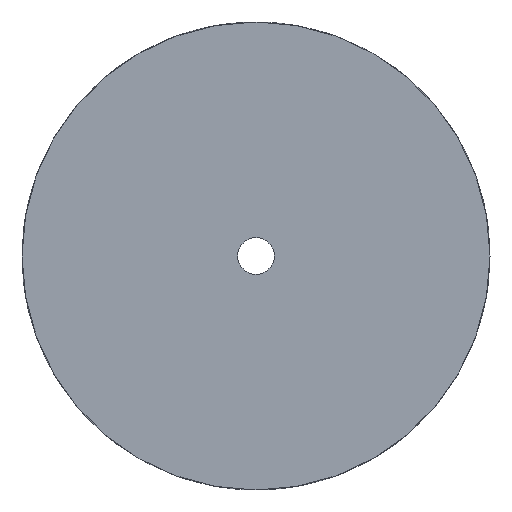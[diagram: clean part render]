
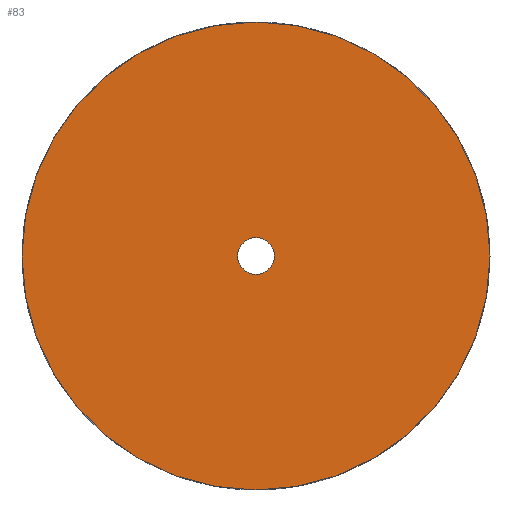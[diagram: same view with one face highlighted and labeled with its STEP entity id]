
A CAD part, front view. The second image highlights one B-rep face of the part: STEP entity #83.
In plain terms, the highlighted planar face has unit normal (0, -1, 0).
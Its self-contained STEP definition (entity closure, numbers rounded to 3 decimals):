
#19=PLANE('',#105);
#21=FACE_BOUND('',#31,.T.);
#25=FACE_OUTER_BOUND('',#30,.T.);
#30=EDGE_LOOP('',(#74,#75));
#31=EDGE_LOOP('',(#76));
#40=CIRCLE('',#100,1.5);
#41=CIRCLE('',#103,19.034);
#42=CIRCLE('',#104,19.034);
#43=VERTEX_POINT('',#132);
#48=VERTEX_POINT('',#245);
#49=VERTEX_POINT('',#246);
#50=EDGE_CURVE('',#43,#43,#40,.T.);
#56=EDGE_CURVE('',#48,#49,#41,.T.);
#57=EDGE_CURVE('',#49,#48,#42,.T.);
#74=ORIENTED_EDGE('',*,*,#56,.T.);
#75=ORIENTED_EDGE('',*,*,#57,.T.);
#76=ORIENTED_EDGE('',*,*,#50,.T.);
#83=ADVANCED_FACE('',(#25,#21),#19,.T.);
#100=AXIS2_PLACEMENT_3D('',#133,#113,#114);
#103=AXIS2_PLACEMENT_3D('',#247,#120,#121);
#104=AXIS2_PLACEMENT_3D('',#248,#122,#123);
#105=AXIS2_PLACEMENT_3D('',#250,#125,#126);
#113=DIRECTION('center_axis',(0.,1.,0.));
#114=DIRECTION('ref_axis',(1.,0.,0.));
#120=DIRECTION('center_axis',(0.,-1.,0.));
#121=DIRECTION('ref_axis',(1.,0.,0.));
#122=DIRECTION('center_axis',(0.,-1.,0.));
#123=DIRECTION('ref_axis',(1.,0.,0.));
#125=DIRECTION('center_axis',(0.,-1.,0.));
#126=DIRECTION('ref_axis',(0.,0.,-1.));
#132=CARTESIAN_POINT('',(-1.5,50.383,-66.065));
#133=CARTESIAN_POINT('Origin',(0.,50.383,-66.065));
#245=CARTESIAN_POINT('',(0.,50.383,-85.099));
#246=CARTESIAN_POINT('',(0.,50.383,-47.031));
#247=CARTESIAN_POINT('Origin',(0.,50.383,-66.065));
#248=CARTESIAN_POINT('Origin',(0.,50.383,-66.065));
#250=CARTESIAN_POINT('Origin',(0.,50.383,-66.065));
